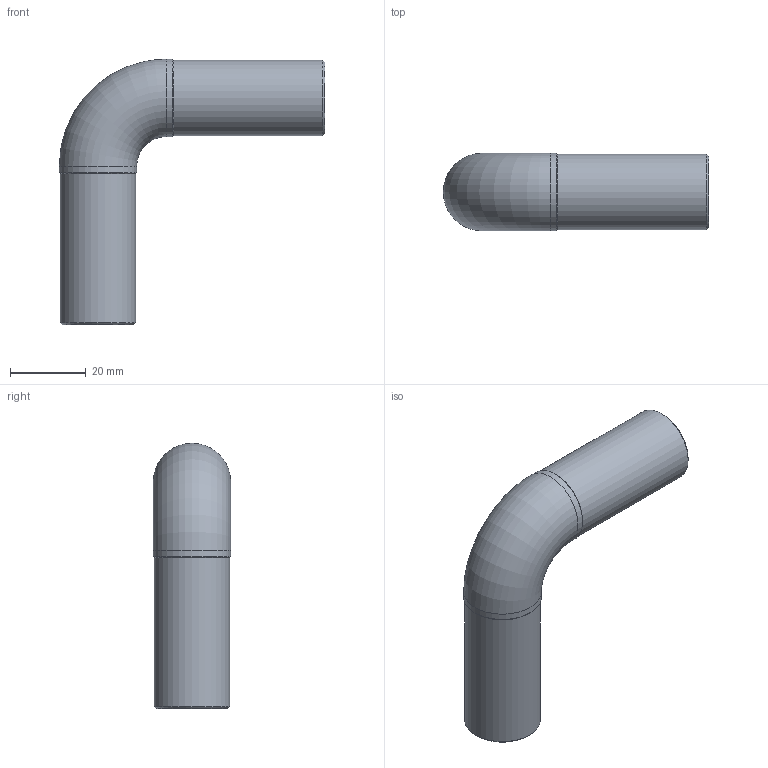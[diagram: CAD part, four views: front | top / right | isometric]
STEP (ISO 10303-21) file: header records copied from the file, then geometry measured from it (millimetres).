
FILE_DESCRIPTION(/* description */ ('Unknown'),/* implementation_level */ '2;1');
FILE_NAME(/* name */ 'G9P020C.H',/* time_stamp */ '2021-11-15T11:29:57+01:00',/* author */ ('Unknown'),/* organization */ ('Unknown'),/* preprocessor_version */ 'ST-DEVELOPER v16.7',/* originating_system */ 'Solid Edge',/* authorisation */ 'Unknown');
FILE_SCHEMA (('AUTOMOTIVE_DESIGN {1 0 10303 214 3 1 1}'));
Length unit declared in the file: millimetre
Products named in the file (1): G9P020C.H
Bounding box: 70.25 x 20.5 x 70.25 mm (x, y, z)
Volume: 18482.6 mm3; surface area: 12339 mm2
Topology: 1 solids, 1 shells, 14 faces, 28 edges, 16 vertices
Faces by surface type: cylinder 6, cone 4, torus 2, plane 2
Full cylindrical faces by diameter (mm): 14 x2, 20 x2, 20.5 x2
Entity records: 318 total; most frequent: DIRECTION 58, CARTESIAN_POINT 43, AXIS2_PLACEMENT_3D 29, ORIENTED_EDGE 28, EDGE_LOOP 28, FACE_BOUND 28, EDGE_CURVE 14, VERTEX_POINT 14
